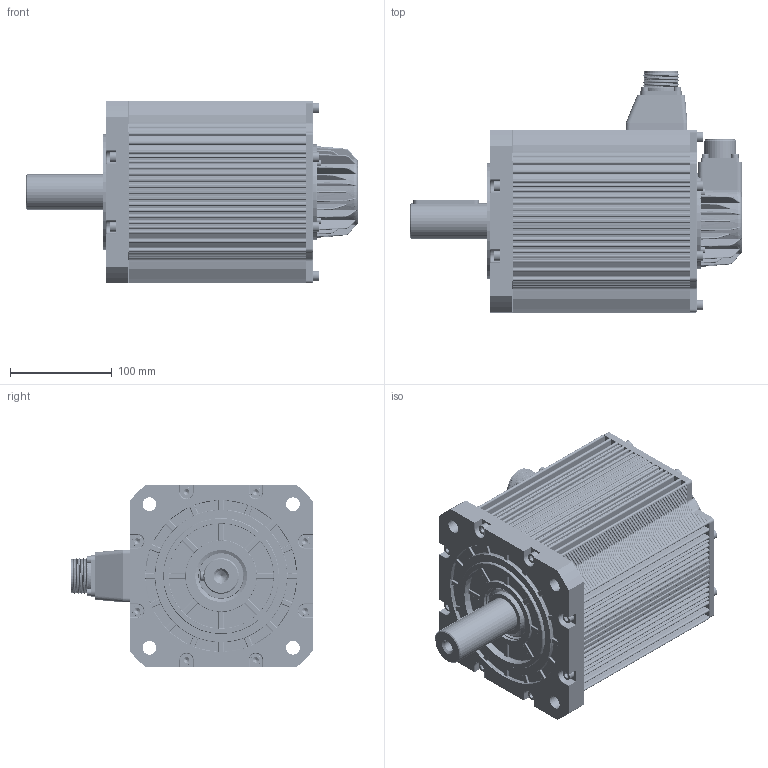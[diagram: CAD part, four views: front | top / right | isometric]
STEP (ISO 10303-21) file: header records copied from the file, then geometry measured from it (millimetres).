
FILE_DESCRIPTION((''),'2;1');
FILE_NAME('11101-01228_ASM','2024-11-14T11:10:39',('0108628'),(''),'CREO PARAMETRIC BY PTC INC, 2019080','CREO PARAMETRIC BY PTC INC, 2019080','');
FILE_SCHEMA(('CONFIG_CONTROL_DESIGN'));
Products named in the file (32): 83040195_AF0; 6206_AF0; 80100282_AF0; JB6695-161_AF0; 12111-00741_AF0_ASM; 80040353_AF0; 5X8L0; 12112-00971_AF0_ASM; YD32-180-TY; YD32-MD; YD32-MDS; DONGLI-HC-5015; YD32-4_ASM; 50030-00180_AF0; JB6695-161_AF1; GBT7R1-6X25; 58X45X7L00; QDG_AF0_ASM; 87800001_AF0; M4X12_AF0; M4X12_AF1; M4X12_AF2; M4X12_AF3; ISO4762-M4X6-8_8; DIN912-M3X5-8_8_AF0; DIN912-M3X5-8_8_AF1; 10X8X65L; 86870277_AF0; XINHAO-HC-5015; DIN912-M4X40-8_8; DIN912-M4X12-8_8; 11101-01228_ASM
Assembly tree (53 placements, depth 3):
  11101-01228_ASM
    12111-00741_AF0_ASM
      83040195_AF0
      6206_AF0
      80100282_AF0
      JB6695-161_AF0
    12112-00971_AF0_ASM
      80040353_AF0
      5X8L0
    YD32-4_ASM
      YD32-180-TY
      YD32-MD
      YD32-MDS
      DONGLI-HC-5015
    QDG_AF0_ASM
      50030-00180_AF0
      JB6695-161_AF1
      GBT7R1-6X25  x8
      58X45X7L00
    87800001_AF0
    M4X12_AF0
    M4X12_AF1
    M4X12_AF2
    M4X12_AF3
    ISO4762-M4X6-8_8
    GBT7R1-6X25  x8
    DIN912-M3X5-8_8_AF0
    DIN912-M3X5-8_8_AF1
    10X8X65L
    86870277_AF0
    XINHAO-HC-5015
    DIN912-M4X40-8_8  x4
    DIN912-M4X12-8_8  x4
    DONGLI-HC-5015
Bounding box: 327 x 237.4 x 180 mm (x, y, z)
Volume: 1817895 mm3; surface area: 727995.8 mm2
Topology: 48 solids, 108 shells, 7670 faces, 20109 edges, 12814 vertices
Faces by surface type: plane 3065, cylinder 2214, extrusion 840, cone 502, bspline 483, torus 404, sphere 162
Entity records: 258448 total; most frequent: CARTESIAN_POINT 110606, ORIENTED_EDGE 32026, DIRECTION 28541, EDGE_CURVE 16086, VERTEX_POINT 10340, AXIS2_PLACEMENT_3D 9907, VECTOR 8727, LINE 7995
